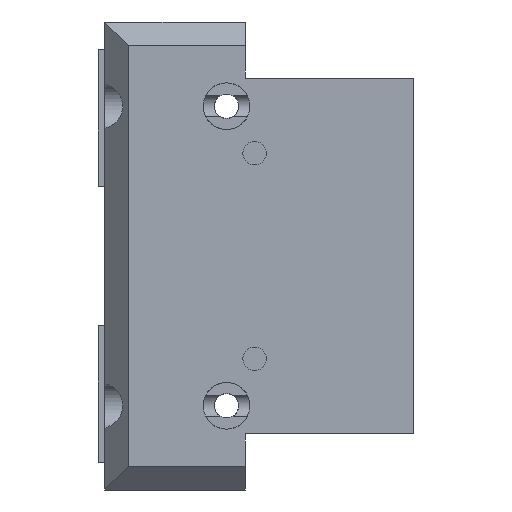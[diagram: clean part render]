
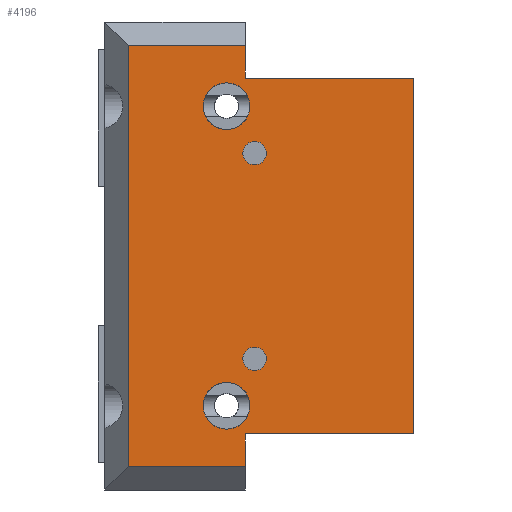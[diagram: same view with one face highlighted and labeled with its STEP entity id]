
A CAD part, left-side view. The second image highlights one B-rep face of the part: STEP entity #4196.
In plain terms, the highlighted planar face has unit normal (-1, 0, 0).
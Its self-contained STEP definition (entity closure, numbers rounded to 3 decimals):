
#199 = CARTESIAN_POINT ( 'NONE',  ( -12., 22.5, -16. ) ) ;
#313 = CARTESIAN_POINT ( 'NONE',  ( -12., 15.75, -11. ) ) ;
#799 = DIRECTION ( 'NONE',  ( 0., 0., -1. ) ) ;
#800 = VECTOR ( 'NONE', #799, 1000. ) ;
#801 = CARTESIAN_POINT ( 'NONE',  ( -12., 0., 25. ) ) ;
#802 = LINE ( 'NONE', #801, #800 ) ;
#811 = CARTESIAN_POINT ( 'NONE',  ( -12., 0., 19. ) ) ;
#873 = CARTESIAN_POINT ( 'NONE',  ( -12., 0., -19. ) ) ;
#993 = DIRECTION ( 'NONE',  ( 0., 1., 0. ) ) ;
#994 = DIRECTION ( 'NONE',  ( -1., 0., 0. ) ) ;
#995 = AXIS2_PLACEMENT_3D ( 'NONE', #1079, #994, #993 ) ;
#998 = VECTOR ( 'NONE', #1080, 1000. ) ;
#1044 = CARTESIAN_POINT ( 'NONE',  ( -12., 18., 22.5 ) ) ;
#1067 = CARTESIAN_POINT ( 'NONE',  ( -12., 18., 19. ) ) ;
#1079 = CARTESIAN_POINT ( 'NONE',  ( -12., 17., -11. ) ) ;
#1080 = DIRECTION ( 'NONE',  ( 0., 1., 0. ) ) ;
#1081 = CARTESIAN_POINT ( 'NONE',  ( -12., 30.5, 22.5 ) ) ;
#1083 = LINE ( 'NONE', #1081, #998 ) ;
#1098 = CIRCLE ( 'NONE', #995, 1.25 ) ;
#1136 = DIRECTION ( 'NONE',  ( 0., 1., 0. ) ) ;
#1140 = FACE_BOUND ( 'NONE', #4243, .T. ) ;
#1148 = DIRECTION ( 'NONE',  ( 0., 0., -1. ) ) ;
#1149 = VECTOR ( 'NONE', #1148, 1000. ) ;
#1150 = CARTESIAN_POINT ( 'NONE',  ( -12., 18., -19. ) ) ;
#1153 = LINE ( 'NONE', #1150, #1149 ) ;
#1157 = DIRECTION ( 'NONE',  ( 1., 0., 0. ) ) ;
#1158 = CIRCLE ( 'NONE', #1246, 1.25 ) ;
#1166 = CARTESIAN_POINT ( 'NONE',  ( -12., 18., 25. ) ) ;
#1167 = LINE ( 'NONE', #1166, #1253 ) ;
#1168 = LINE ( 'NONE', #1305, #1304 ) ;
#1169 = CARTESIAN_POINT ( 'NONE',  ( -12., 30.5, 22.5 ) ) ;
#1198 = FACE_BOUND ( 'NONE', #4241, .T. ) ;
#1199 = CARTESIAN_POINT ( 'NONE',  ( -12., 20., -16. ) ) ;
#1200 = CIRCLE ( 'NONE', #1296, 2.5 ) ;
#1205 = CARTESIAN_POINT ( 'NONE',  ( -12., 30.5, 25. ) ) ;
#1206 = LINE ( 'NONE', #1205, #1311 ) ;
#1215 = AXIS2_PLACEMENT_3D ( 'NONE', #1275, #1274, #1273 ) ;
#1216 = CIRCLE ( 'NONE', #1215, 2.5 ) ;
#1224 = FACE_BOUND ( 'NONE', #4199, .T. ) ;
#1226 = AXIS2_PLACEMENT_3D ( 'NONE', #1321, #1157, #1136 ) ;
#1235 = FACE_OUTER_BOUND ( 'NONE', #4244, .T. ) ;
#1244 = CARTESIAN_POINT ( 'NONE',  ( -12., 17., 11. ) ) ;
#1245 = DIRECTION ( 'NONE',  ( -1., 0., 0. ) ) ;
#1246 = AXIS2_PLACEMENT_3D ( 'NONE', #1244, #1245, #1271 ) ;
#1248 = FACE_BOUND ( 'NONE', #4034, .T. ) ;
#1249 = PLANE ( 'NONE',  #1226 ) ;
#1252 = DIRECTION ( 'NONE',  ( 0., 0., -1. ) ) ;
#1253 = VECTOR ( 'NONE', #1252, 1000. ) ;
#1271 = DIRECTION ( 'NONE',  ( 0., 1., 0. ) ) ;
#1273 = DIRECTION ( 'NONE',  ( 0., -1., 0. ) ) ;
#1274 = DIRECTION ( 'NONE',  ( -1., 0., 0. ) ) ;
#1275 = CARTESIAN_POINT ( 'NONE',  ( -12., 20., 16. ) ) ;
#1276 = DIRECTION ( 'NONE',  ( 0., -1., 0. ) ) ;
#1277 = VECTOR ( 'NONE', #1276, 1000. ) ;
#1290 = CARTESIAN_POINT ( 'NONE',  ( -12., 30.5, -22.5 ) ) ;
#1293 = CARTESIAN_POINT ( 'NONE',  ( -12., 18., -22.5 ) ) ;
#1294 = DIRECTION ( 'NONE',  ( 0., -1., 0. ) ) ;
#1295 = DIRECTION ( 'NONE',  ( -1., 0., 0. ) ) ;
#1296 = AXIS2_PLACEMENT_3D ( 'NONE', #1199, #1295, #1294 ) ;
#1299 = DIRECTION ( 'NONE',  ( 0., -1., 0. ) ) ;
#1300 = VECTOR ( 'NONE', #1299, 1000. ) ;
#1301 = CARTESIAN_POINT ( 'NONE',  ( -12., 18., 19. ) ) ;
#1302 = LINE ( 'NONE', #1301, #1300 ) ;
#1303 = DIRECTION ( 'NONE',  ( 0., -1., 0. ) ) ;
#1304 = VECTOR ( 'NONE', #1303, 1000. ) ;
#1305 = CARTESIAN_POINT ( 'NONE',  ( -12., 30.5, -22.5 ) ) ;
#1310 = DIRECTION ( 'NONE',  ( 0., 0., -1. ) ) ;
#1311 = VECTOR ( 'NONE', #1310, 1000. ) ;
#1321 = CARTESIAN_POINT ( 'NONE',  ( -12., 30.5, 25. ) ) ;
#1337 = CARTESIAN_POINT ( 'NONE',  ( -12., 18., -19. ) ) ;
#1338 = LINE ( 'NONE', #1337, #1277 ) ;
#1341 = CARTESIAN_POINT ( 'NONE',  ( -12., 18., -19. ) ) ;
#2998 = CARTESIAN_POINT ( 'NONE',  ( -12., 22.5, 16. ) ) ;
#3016 = CARTESIAN_POINT ( 'NONE',  ( -12., 17.5, 16. ) ) ;
#3070 = DIRECTION ( 'NONE',  ( 0., -1., 0. ) ) ;
#3071 = DIRECTION ( 'NONE',  ( -1., 0., 0. ) ) ;
#3073 = CARTESIAN_POINT ( 'NONE',  ( -12., 20., 16. ) ) ;
#3074 = AXIS2_PLACEMENT_3D ( 'NONE', #3073, #3071, #3070 ) ;
#3075 = CIRCLE ( 'NONE', #3074, 2.5 ) ;
#3459 = VERTEX_POINT ( 'NONE', #5728 ) ;
#3460 = EDGE_CURVE ( 'NONE', #3462, #3459, #5696, .T. ) ;
#3462 = VERTEX_POINT ( 'NONE', #5731 ) ;
#3465 = EDGE_CURVE ( 'NONE', #3523, #3793, #5748, .T. ) ;
#3523 = VERTEX_POINT ( 'NONE', #5782 ) ;
#3533 = VERTEX_POINT ( 'NONE', #5775 ) ;
#3536 = EDGE_CURVE ( 'NONE', #3739, #3533, #5774, .T. ) ;
#3584 = VERTEX_POINT ( 'NONE', #2998 ) ;
#3601 = VERTEX_POINT ( 'NONE', #3016 ) ;
#3603 = EDGE_CURVE ( 'NONE', #3584, #3601, #3075, .T. ) ;
#3739 = VERTEX_POINT ( 'NONE', #199 ) ;
#3793 = VERTEX_POINT ( 'NONE', #313 ) ;
#3974 = EDGE_CURVE ( 'NONE', #3979, #3978, #802, .T. ) ;
#3978 = VERTEX_POINT ( 'NONE', #873 ) ;
#3979 = VERTEX_POINT ( 'NONE', #811 ) ;
#4034 = EDGE_LOOP ( 'NONE', ( #4039, #4040 ) ) ;
#4035 = EDGE_CURVE ( 'NONE', #4290, #4270, #1083, .T. ) ;
#4036 = EDGE_CURVE ( 'NONE', #3793, #3523, #1098, .T. ) ;
#4038 = ORIENTED_EDGE ( 'NONE', *, *, #4035, .T. ) ;
#4039 = ORIENTED_EDGE ( 'NONE', *, *, #4036, .F. ) ;
#4040 = ORIENTED_EDGE ( 'NONE', *, *, #3465, .F. ) ;
#4042 = ORIENTED_EDGE ( 'NONE', *, *, #3603, .F. ) ;
#4181 = EDGE_CURVE ( 'NONE', #3459, #3462, #1158, .T. ) ;
#4195 = EDGE_CURVE ( 'NONE', #3601, #3584, #1216, .T. ) ;
#4196 = ADVANCED_FACE ( 'NONE', ( #1198, #1140, #1224, #1235, #1248 ), #1249, .F. ) ;
#4197 = ORIENTED_EDGE ( 'NONE', *, *, #4195, .F. ) ;
#4198 = ORIENTED_EDGE ( 'NONE', *, *, #3460, .F. ) ;
#4199 = EDGE_LOOP ( 'NONE', ( #4200, #4269 ) ) ;
#4200 = ORIENTED_EDGE ( 'NONE', *, *, #4201, .F. ) ;
#4201 = EDGE_CURVE ( 'NONE', #3533, #3739, #1200, .T. ) ;
#4202 = ORIENTED_EDGE ( 'NONE', *, *, #4273, .T. ) ;
#4220 = ORIENTED_EDGE ( 'NONE', *, *, #3974, .F. ) ;
#4221 = ORIENTED_EDGE ( 'NONE', *, *, #4276, .F. ) ;
#4222 = EDGE_CURVE ( 'NONE', #4272, #3978, #1338, .T. ) ;
#4223 = EDGE_CURVE ( 'NONE', #4291, #3979, #1302, .T. ) ;
#4224 = ORIENTED_EDGE ( 'NONE', *, *, #4222, .T. ) ;
#4241 = EDGE_LOOP ( 'NONE', ( #4279, #4198 ) ) ;
#4243 = EDGE_LOOP ( 'NONE', ( #4197, #4042 ) ) ;
#4244 = EDGE_LOOP ( 'NONE', ( #4202, #4274, #4221, #4224, #4220, #4289, #4288, #4038 ) ) ;
#4268 = VERTEX_POINT ( 'NONE', #1293 ) ;
#4269 = ORIENTED_EDGE ( 'NONE', *, *, #3536, .F. ) ;
#4270 = VERTEX_POINT ( 'NONE', #1169 ) ;
#4271 = VERTEX_POINT ( 'NONE', #1290 ) ;
#4272 = VERTEX_POINT ( 'NONE', #1341 ) ;
#4273 = EDGE_CURVE ( 'NONE', #4270, #4271, #1206, .T. ) ;
#4274 = ORIENTED_EDGE ( 'NONE', *, *, #4275, .T. ) ;
#4275 = EDGE_CURVE ( 'NONE', #4271, #4268, #1168, .T. ) ;
#4276 = EDGE_CURVE ( 'NONE', #4272, #4268, #1153, .T. ) ;
#4279 = ORIENTED_EDGE ( 'NONE', *, *, #4181, .F. ) ;
#4288 = ORIENTED_EDGE ( 'NONE', *, *, #4292, .F. ) ;
#4289 = ORIENTED_EDGE ( 'NONE', *, *, #4223, .F. ) ;
#4290 = VERTEX_POINT ( 'NONE', #1044 ) ;
#4291 = VERTEX_POINT ( 'NONE', #1067 ) ;
#4292 = EDGE_CURVE ( 'NONE', #4290, #4291, #1167, .T. ) ;
#5680 = DIRECTION ( 'NONE',  ( 0., 1., 0. ) ) ;
#5681 = DIRECTION ( 'NONE',  ( -1., 0., 0. ) ) ;
#5682 = CARTESIAN_POINT ( 'NONE',  ( -12., 17., 11. ) ) ;
#5683 = AXIS2_PLACEMENT_3D ( 'NONE', #5682, #5681, #5680 ) ;
#5686 = CARTESIAN_POINT ( 'NONE',  ( -12., 17., -11. ) ) ;
#5696 = CIRCLE ( 'NONE', #5683, 1.25 ) ;
#5728 = CARTESIAN_POINT ( 'NONE',  ( -12., 15.75, 11. ) ) ;
#5731 = CARTESIAN_POINT ( 'NONE',  ( -12., 18.25, 11. ) ) ;
#5741 = DIRECTION ( 'NONE',  ( 0., 1., 0. ) ) ;
#5742 = DIRECTION ( 'NONE',  ( -1., 0., 0. ) ) ;
#5744 = AXIS2_PLACEMENT_3D ( 'NONE', #5686, #5742, #5741 ) ;
#5748 = CIRCLE ( 'NONE', #5744, 1.25 ) ;
#5767 = DIRECTION ( 'NONE',  ( 0., -1., 0. ) ) ;
#5768 = DIRECTION ( 'NONE',  ( -1., 0., 0. ) ) ;
#5769 = CARTESIAN_POINT ( 'NONE',  ( -12., 20., -16. ) ) ;
#5770 = AXIS2_PLACEMENT_3D ( 'NONE', #5769, #5768, #5767 ) ;
#5774 = CIRCLE ( 'NONE', #5770, 2.5 ) ;
#5775 = CARTESIAN_POINT ( 'NONE',  ( -12., 17.5, -16. ) ) ;
#5782 = CARTESIAN_POINT ( 'NONE',  ( -12., 18.25, -11. ) ) ;
